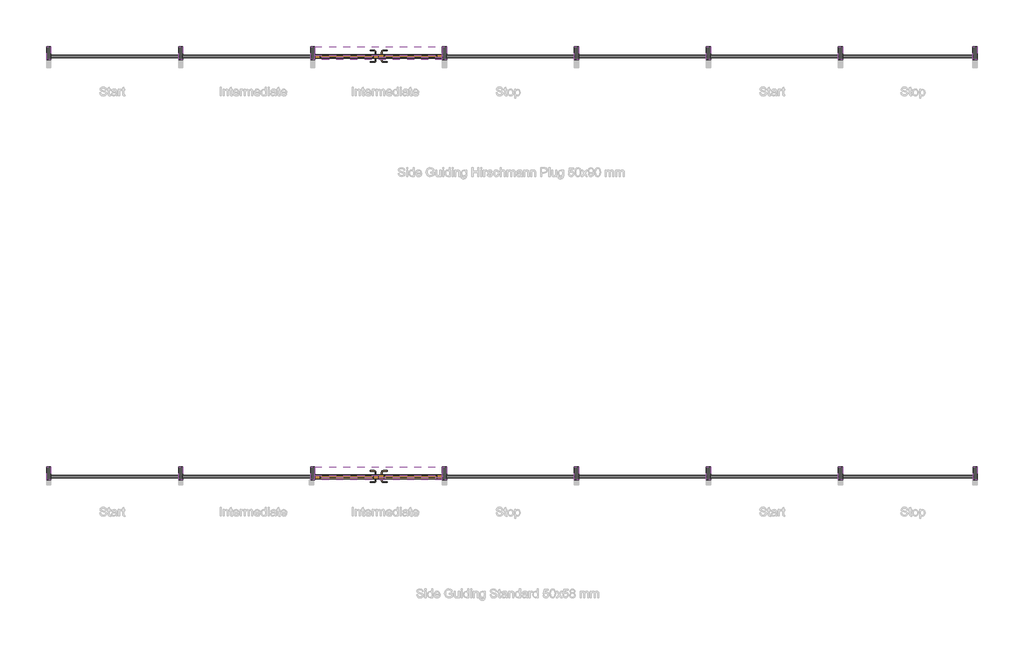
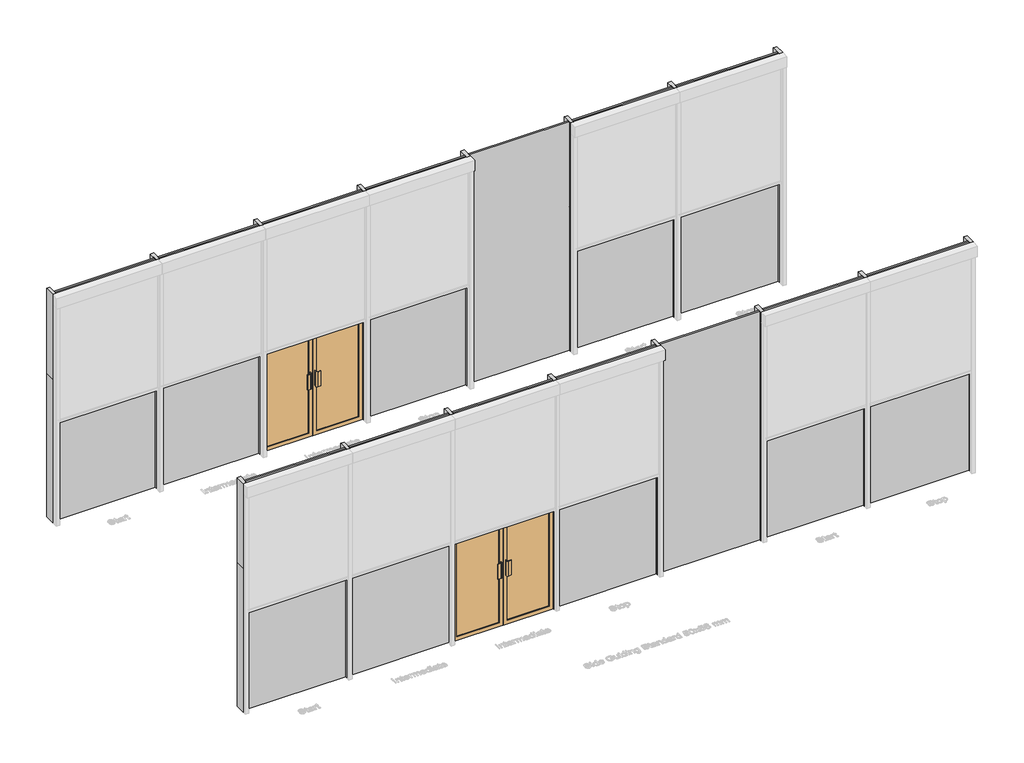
# One storey, part 1 of 8: 34 members, 14 plates, 2 doors.
"""IFC4 building model written with IfcOpenShell, lengths in millimetres."""

from ifc_helpers import new_model, si_unit, origin, place, context, project, spatial, transform, mapped, element, save
from components import m_door_curtain_wall_double_storefront_m_door_curtain_wall_2510477e, rectangular_mullion_50_x_150mm_9cef7b28, rectangular_mullion_50_x_150mm_d0db7fae, rectangular_mullion_50_x_150mm_792551fd, rectangular_mullion_50_x_150mm_1e3c48d4, rectangular_mullion_50_x_150mm_f0154c62, system_panel_glazed_d9c70c5e, system_panel_glazed_12b11880, system_panel_glazed_c856ec9c, system_panel_glazed_79ba9eb3

model = new_model("IFC4")

# Units and contexts
model_context = context("Model", 3, world=origin())
ifc_project = project(units=[si_unit("LENGTHUNIT", "METRE", prefix="MILLI")], contexts=[model_context])

# Site, building, storey
site = spatial("IfcSite", under=ifc_project)
building = spatial("IfcBuilding", under=site)
storey = spatial("IfcBuildingStorey", under=building, Name="Fixscreen Mini CW50 Overview Top", Elevation=0.0)

# Doors
placement = place(None, origin())
m_door_curtain_wall_double_storefront_m_door_curtain_wall_shape = m_door_curtain_wall_double_storefront_m_door_curtain_wall_2510477e(model_context)
element("IfcDoor", 1, ObjectType="M_Door-Curtain-Wall-Double-Storefront : M_Door-Curtain-Wall-Double-Storefront", at=placement, inside=storey, context=model_context, shape_type="MappedRepresentation", body=[
    mapped(m_door_curtain_wall_double_storefront_m_door_curtain_wall_shape, transform((-5658.6521319, 5269.1516233, 0.0), x_axis=(1.0, 0.0, 0.0), y_axis=(0.0, 1.0, 0.0), z_axis=(0.0, 0.0, 1.0))),
])
element("IfcDoor", 2, ObjectType="M_Door-Curtain-Wall-Double-Storefront : M_Door-Curtain-Wall-Double-Storefront", at=placement, inside=storey, context=model_context, shape_type="MappedRepresentation", body=[
    mapped(m_door_curtain_wall_double_storefront_m_door_curtain_wall_shape, transform((-5658.6521319, 489.0054477, 0.0), x_axis=(1.0, 0.0, 0.0), y_axis=(0.0, 1.0, 0.0), z_axis=(0.0, 0.0, 1.0))),
])

# Members
rectangular_mullion_50_x_150mm_shape = rectangular_mullion_50_x_150mm_9cef7b28(model_context)
element("IfcMember", 3, ObjectType="Rectangular Mullion : 50 x 150mm", at=placement, inside=storey, context=model_context, shape_type="MappedRepresentation", body=[
    mapped(rectangular_mullion_50_x_150mm_shape, transform((-7908.6521319, 5269.1516233, 0.0), x_axis=(1.0, 0.0, 0.0), y_axis=(0.0, -1.0, 0.0), z_axis=(0.0, 0.0, -1.0))),
])
element("IfcMember", 4, ObjectType="Rectangular Mullion : 50 x 150mm", at=placement, inside=storey, context=model_context, shape_type="MappedRepresentation", body=[
    mapped(rectangular_mullion_50_x_150mm_shape, transform((-3408.6521319, 5269.1516233, 0.0), x_axis=(1.0, 0.0, 0.0), y_axis=(0.0, -1.0, 0.0), z_axis=(0.0, 0.0, -1.0))),
])
element("IfcMember", 5, ObjectType="Rectangular Mullion : 50 x 150mm", at=placement, inside=storey, context=model_context, shape_type="MappedRepresentation", body=[
    mapped(rectangular_mullion_50_x_150mm_shape, transform((-1908.6521319, 5269.1516233, 0.0), x_axis=(1.0, 0.0, 0.0), y_axis=(0.0, -1.0, 0.0), z_axis=(0.0, 0.0, -1.0))),
])
element("IfcMember", 6, ObjectType="Rectangular Mullion : 50 x 150mm", at=placement, inside=storey, context=model_context, shape_type="MappedRepresentation", body=[
    mapped(rectangular_mullion_50_x_150mm_shape, transform((-408.6521319, 5269.1516233, 0.0), x_axis=(1.0, 0.0, 0.0), y_axis=(0.0, -1.0, 0.0), z_axis=(0.0, 0.0, -1.0))),
])
element("IfcMember", 7, ObjectType="Rectangular Mullion : 50 x 150mm", at=placement, inside=storey, context=model_context, shape_type="MappedRepresentation", body=[
    mapped(rectangular_mullion_50_x_150mm_shape, transform((-7908.6521319, 489.0054477, 0.0), x_axis=(1.0, 0.0, 0.0), y_axis=(0.0, -1.0, 0.0), z_axis=(0.0, 0.0, -1.0))),
])
element("IfcMember", 8, ObjectType="Rectangular Mullion : 50 x 150mm", at=placement, inside=storey, context=model_context, shape_type="MappedRepresentation", body=[
    mapped(rectangular_mullion_50_x_150mm_shape, transform((-3408.6521319, 489.0054477, 0.0), x_axis=(1.0, 0.0, 0.0), y_axis=(0.0, -1.0, 0.0), z_axis=(0.0, 0.0, -1.0))),
])
element("IfcMember", 9, ObjectType="Rectangular Mullion : 50 x 150mm", at=placement, inside=storey, context=model_context, shape_type="MappedRepresentation", body=[
    mapped(rectangular_mullion_50_x_150mm_shape, transform((-1908.6521319, 489.0054477, 0.0), x_axis=(1.0, 0.0, 0.0), y_axis=(0.0, -1.0, 0.0), z_axis=(0.0, 0.0, -1.0))),
])
element("IfcMember", 10, ObjectType="Rectangular Mullion : 50 x 150mm", at=placement, inside=storey, context=model_context, shape_type="MappedRepresentation", body=[
    mapped(rectangular_mullion_50_x_150mm_shape, transform((-408.6521319, 489.0054477, 0.0), x_axis=(1.0, 0.0, 0.0), y_axis=(0.0, -1.0, 0.0), z_axis=(0.0, 0.0, -1.0))),
])
rectangular_mullion_50_x_150mm_2_shape = rectangular_mullion_50_x_150mm_d0db7fae(model_context)
element("IfcMember", 11, ObjectType="Rectangular Mullion : 50 x 150mm", at=placement, inside=storey, context=model_context, shape_type="MappedRepresentation", body=[
    mapped(rectangular_mullion_50_x_150mm_2_shape, transform((-7908.6521319, 489.0054477, 2200.0), x_axis=(1.0, 0.0, 0.0), y_axis=(0.0, -1.0, 0.0), z_axis=(0.0, 0.0, -1.0))),
])
element("IfcMember", 12, ObjectType="Rectangular Mullion : 50 x 150mm", at=placement, inside=storey, context=model_context, shape_type="MappedRepresentation", body=[
    mapped(rectangular_mullion_50_x_150mm_2_shape, transform((-3408.6521319, 489.0054477, 2200.0), x_axis=(1.0, 0.0, 0.0), y_axis=(0.0, -1.0, 0.0), z_axis=(0.0, 0.0, -1.0))),
])
element("IfcMember", 13, ObjectType="Rectangular Mullion : 50 x 150mm", at=placement, inside=storey, context=model_context, shape_type="MappedRepresentation", body=[
    mapped(rectangular_mullion_50_x_150mm_2_shape, transform((-1908.6521319, 489.0054477, 2200.0), x_axis=(1.0, 0.0, 0.0), y_axis=(0.0, -1.0, 0.0), z_axis=(0.0, 0.0, -1.0))),
])
element("IfcMember", 14, ObjectType="Rectangular Mullion : 50 x 150mm", at=placement, inside=storey, context=model_context, shape_type="MappedRepresentation", body=[
    mapped(rectangular_mullion_50_x_150mm_2_shape, transform((-408.6521319, 489.0054477, 2200.0), x_axis=(1.0, 0.0, 0.0), y_axis=(0.0, -1.0, 0.0), z_axis=(0.0, 0.0, -1.0))),
])
element("IfcMember", 15, ObjectType="Rectangular Mullion : 50 x 150mm", at=placement, inside=storey, context=model_context, shape_type="MappedRepresentation", body=[
    mapped(rectangular_mullion_50_x_150mm_2_shape, transform((-7908.6521319, 5269.1516233, 2200.0), x_axis=(1.0, 0.0, 0.0), y_axis=(0.0, -1.0, 0.0), z_axis=(0.0, 0.0, -1.0))),
])
element("IfcMember", 16, ObjectType="Rectangular Mullion : 50 x 150mm", at=placement, inside=storey, context=model_context, shape_type="MappedRepresentation", body=[
    mapped(rectangular_mullion_50_x_150mm_2_shape, transform((-3408.6521319, 5269.1516233, 2200.0), x_axis=(1.0, 0.0, 0.0), y_axis=(0.0, -1.0, 0.0), z_axis=(0.0, 0.0, -1.0))),
])
element("IfcMember", 17, ObjectType="Rectangular Mullion : 50 x 150mm", at=placement, inside=storey, context=model_context, shape_type="MappedRepresentation", body=[
    mapped(rectangular_mullion_50_x_150mm_2_shape, transform((-1908.6521319, 5269.1516233, 2200.0), x_axis=(1.0, 0.0, 0.0), y_axis=(0.0, -1.0, 0.0), z_axis=(0.0, 0.0, -1.0))),
])
element("IfcMember", 18, ObjectType="Rectangular Mullion : 50 x 150mm", at=placement, inside=storey, context=model_context, shape_type="MappedRepresentation", body=[
    mapped(rectangular_mullion_50_x_150mm_2_shape, transform((-408.6521319, 5269.1516233, 2200.0), x_axis=(1.0, 0.0, 0.0), y_axis=(0.0, -1.0, 0.0), z_axis=(0.0, 0.0, -1.0))),
])
rectangular_mullion_50_x_150mm_3_shape = rectangular_mullion_50_x_150mm_792551fd(model_context)
element("IfcMember", 19, ObjectType="Rectangular Mullion : 50 x 150mm", at=placement, inside=storey, context=model_context, shape_type="MappedRepresentation", body=[
    mapped(rectangular_mullion_50_x_150mm_3_shape, transform((1141.3478681, 5269.1516233, 0.0), x_axis=(1.0, 0.0, 0.0), y_axis=(0.0, -1.0, 0.0), z_axis=(0.0, 0.0, -1.0))),
])
element("IfcMember", 20, ObjectType="Rectangular Mullion : 50 x 150mm", at=placement, inside=storey, context=model_context, shape_type="MappedRepresentation", body=[
    mapped(rectangular_mullion_50_x_150mm_3_shape, transform((1146.3478681, 489.0054477, 0.0), x_axis=(1.0, 0.0, 0.0), y_axis=(0.0, -1.0, 0.0), z_axis=(0.0, 0.0, -1.0))),
])
rectangular_mullion_50_x_150mm_4_shape = rectangular_mullion_50_x_150mm_1e3c48d4(model_context)
element("IfcMember", 21, ObjectType="Rectangular Mullion : 50 x 150mm", at=placement, inside=storey, context=model_context, shape_type="MappedRepresentation", body=[
    mapped(rectangular_mullion_50_x_150mm_4_shape, transform((-9433.6521319, 489.0054477, 3500.0), x_axis=(-1.0, 0.0, 0.0), y_axis=(0.0, -1.0, 0.0), z_axis=(0.0, 0.0, 1.0))),
])
element("IfcMember", 22, ObjectType="Rectangular Mullion : 50 x 150mm", at=placement, inside=storey, context=model_context, shape_type="MappedRepresentation", body=[
    mapped(rectangular_mullion_50_x_150mm_4_shape, transform((-9433.6521319, 5269.1516233, 3500.0), x_axis=(-1.0, 0.0, 0.0), y_axis=(0.0, -1.0, 0.0), z_axis=(0.0, 0.0, 1.0))),
])
element("IfcMember", 23, ObjectType="Rectangular Mullion : 50 x 150mm", at=placement, inside=storey, context=model_context, shape_type="MappedRepresentation", body=[
    mapped(rectangular_mullion_50_x_150mm_4_shape, transform((1146.3478681, 489.0054477, 2200.0), x_axis=(1.0, 0.0, 0.0), y_axis=(0.0, -1.0, 0.0), z_axis=(0.0, 0.0, -1.0))),
])
element("IfcMember", 24, ObjectType="Rectangular Mullion : 50 x 150mm", at=placement, inside=storey, context=model_context, shape_type="MappedRepresentation", body=[
    mapped(rectangular_mullion_50_x_150mm_4_shape, transform((1141.3478681, 5269.1516233, 2200.0), x_axis=(1.0, 0.0, 0.0), y_axis=(0.0, -1.0, 0.0), z_axis=(0.0, 0.0, -1.0))),
])
element("IfcMember", 25, ObjectType="Rectangular Mullion : 50 x 150mm", at=placement, inside=storey, context=model_context, shape_type="MappedRepresentation", body=[
    mapped(rectangular_mullion_50_x_150mm_3_shape, transform((-9433.6521319, 489.0054477, 2200.0), x_axis=(-1.0, 0.0, 0.0), y_axis=(0.0, -1.0, 0.0), z_axis=(0.0, 0.0, 1.0))),
])
element("IfcMember", 26, ObjectType="Rectangular Mullion : 50 x 150mm", at=placement, inside=storey, context=model_context, shape_type="MappedRepresentation", body=[
    mapped(rectangular_mullion_50_x_150mm_3_shape, transform((-9433.6521319, 5269.1516233, 2200.0), x_axis=(-1.0, 0.0, 0.0), y_axis=(0.0, -1.0, 0.0), z_axis=(0.0, 0.0, 1.0))),
])
element("IfcMember", 27, ObjectType="Rectangular Mullion : 50 x 150mm", at=placement, inside=storey, context=model_context, shape_type="MappedRepresentation", body=[
    mapped(rectangular_mullion_50_x_150mm_shape, transform((-6408.6521319, 5269.1516233, 0.0), x_axis=(1.0, 0.0, 0.0), y_axis=(0.0, -1.0, 0.0), z_axis=(0.0, 0.0, -1.0))),
])
element("IfcMember", 28, ObjectType="Rectangular Mullion : 50 x 150mm", at=placement, inside=storey, context=model_context, shape_type="MappedRepresentation", body=[
    mapped(rectangular_mullion_50_x_150mm_shape, transform((-4908.6521319, 5269.1516233, 0.0), x_axis=(1.0, 0.0, 0.0), y_axis=(0.0, -1.0, 0.0), z_axis=(0.0, 0.0, -1.0))),
])
element("IfcMember", 29, ObjectType="Rectangular Mullion : 50 x 150mm", at=placement, inside=storey, context=model_context, shape_type="MappedRepresentation", body=[
    mapped(rectangular_mullion_50_x_150mm_shape, transform((-6408.6521319, 489.0054477, 0.0), x_axis=(1.0, 0.0, 0.0), y_axis=(0.0, -1.0, 0.0), z_axis=(0.0, 0.0, -1.0))),
])
element("IfcMember", 30, ObjectType="Rectangular Mullion : 50 x 150mm", at=placement, inside=storey, context=model_context, shape_type="MappedRepresentation", body=[
    mapped(rectangular_mullion_50_x_150mm_shape, transform((-4908.6521319, 489.0054477, 0.0), x_axis=(1.0, 0.0, 0.0), y_axis=(0.0, -1.0, 0.0), z_axis=(0.0, 0.0, -1.0))),
])
element("IfcMember", 31, ObjectType="Rectangular Mullion : 50 x 150mm", at=placement, inside=storey, context=model_context, shape_type="MappedRepresentation", body=[
    mapped(rectangular_mullion_50_x_150mm_2_shape, transform((-6408.6521319, 489.0054477, 2200.0), x_axis=(1.0, 0.0, 0.0), y_axis=(0.0, -1.0, 0.0), z_axis=(0.0, 0.0, -1.0))),
])
element("IfcMember", 32, ObjectType="Rectangular Mullion : 50 x 150mm", at=placement, inside=storey, context=model_context, shape_type="MappedRepresentation", body=[
    mapped(rectangular_mullion_50_x_150mm_2_shape, transform((-4908.6521319, 489.0054477, 2200.0), x_axis=(1.0, 0.0, 0.0), y_axis=(0.0, -1.0, 0.0), z_axis=(0.0, 0.0, -1.0))),
])
element("IfcMember", 33, ObjectType="Rectangular Mullion : 50 x 150mm", at=placement, inside=storey, context=model_context, shape_type="MappedRepresentation", body=[
    mapped(rectangular_mullion_50_x_150mm_2_shape, transform((-6408.6521319, 5269.1516233, 2200.0), x_axis=(1.0, 0.0, 0.0), y_axis=(0.0, -1.0, 0.0), z_axis=(0.0, 0.0, -1.0))),
])
element("IfcMember", 34, ObjectType="Rectangular Mullion : 50 x 150mm", at=placement, inside=storey, context=model_context, shape_type="MappedRepresentation", body=[
    mapped(rectangular_mullion_50_x_150mm_2_shape, transform((-4908.6521319, 5269.1516233, 2200.0), x_axis=(1.0, 0.0, 0.0), y_axis=(0.0, -1.0, 0.0), z_axis=(0.0, 0.0, -1.0))),
])
rectangular_mullion_50_x_150mm_5_shape = rectangular_mullion_50_x_150mm_f0154c62(model_context)
element("IfcMember", 35, ObjectType="Rectangular Mullion : 50 x 150mm", at=placement, inside=storey, context=model_context, shape_type="MappedRepresentation", body=[
    mapped(rectangular_mullion_50_x_150mm_5_shape, transform((-4933.6521319, 489.0054477, 2200.0), x_axis=(0.0, 0.0, 1.0), y_axis=(0.0, -1.0, 0.0), z_axis=(1.0, 0.0, 0.0))),
])
element("IfcMember", 36, ObjectType="Rectangular Mullion : 50 x 150mm", at=placement, inside=storey, context=model_context, shape_type="MappedRepresentation", body=[
    mapped(rectangular_mullion_50_x_150mm_5_shape, transform((-4933.6521319, 5269.1516233, 2200.0), x_axis=(0.0, 0.0, 1.0), y_axis=(0.0, -1.0, 0.0), z_axis=(1.0, 0.0, 0.0))),
])

# Plates
system_panel_glazed_shape = system_panel_glazed_d9c70c5e(model_context)
element("IfcPlate", 37, ObjectType="System Panel : Glazed", at=placement, inside=storey, context=model_context, shape_type="MappedRepresentation", body=[
    mapped(system_panel_glazed_shape, transform((-8658.6521319, 5269.1516233, 0.0), x_axis=(1.0, 0.0, 0.0), y_axis=(0.0, 1.0, 0.0), z_axis=(0.0, 0.0, 1.0))),
])
element("IfcPlate", 38, ObjectType="System Panel : Glazed", at=placement, inside=storey, context=model_context, shape_type="MappedRepresentation", body=[
    mapped(system_panel_glazed_shape, transform((-7158.6521319, 5269.1516233, 0.0), x_axis=(1.0, 0.0, 0.0), y_axis=(0.0, 1.0, 0.0), z_axis=(0.0, 0.0, 1.0))),
])
element("IfcPlate", 39, ObjectType="System Panel : Glazed", at=placement, inside=storey, context=model_context, shape_type="MappedRepresentation", body=[
    mapped(system_panel_glazed_shape, transform((-4158.6521319, 5269.1516233, 0.0), x_axis=(1.0, 0.0, 0.0), y_axis=(0.0, 1.0, 0.0), z_axis=(0.0, 0.0, 1.0))),
])
element("IfcPlate", 40, ObjectType="System Panel : Glazed", at=placement, inside=storey, context=model_context, shape_type="MappedRepresentation", body=[
    mapped(system_panel_glazed_shape, transform((-2658.6521319, 5269.1516233, 0.0), x_axis=(1.0, 0.0, 0.0), y_axis=(0.0, 1.0, 0.0), z_axis=(0.0, 0.0, 1.0))),
])
element("IfcPlate", 41, ObjectType="System Panel : Glazed", at=placement, inside=storey, context=model_context, shape_type="MappedRepresentation", body=[
    mapped(system_panel_glazed_shape, transform((-1158.6521319, 5269.1516233, 0.0), x_axis=(1.0, 0.0, 0.0), y_axis=(0.0, 1.0, 0.0), z_axis=(0.0, 0.0, 1.0))),
])
element("IfcPlate", 42, ObjectType="System Panel : Glazed", at=placement, inside=storey, context=model_context, shape_type="MappedRepresentation", body=[
    mapped(system_panel_glazed_shape, transform((-8658.6521319, 489.0054477, 0.0), x_axis=(1.0, 0.0, 0.0), y_axis=(0.0, 1.0, 0.0), z_axis=(0.0, 0.0, 1.0))),
])
element("IfcPlate", 43, ObjectType="System Panel : Glazed", at=placement, inside=storey, context=model_context, shape_type="MappedRepresentation", body=[
    mapped(system_panel_glazed_shape, transform((-7158.6521319, 489.0054477, 0.0), x_axis=(1.0, 0.0, 0.0), y_axis=(0.0, 1.0, 0.0), z_axis=(0.0, 0.0, 1.0))),
])
element("IfcPlate", 44, ObjectType="System Panel : Glazed", at=placement, inside=storey, context=model_context, shape_type="MappedRepresentation", body=[
    mapped(system_panel_glazed_shape, transform((-4158.6521319, 489.0054477, 0.0), x_axis=(1.0, 0.0, 0.0), y_axis=(0.0, 1.0, 0.0), z_axis=(0.0, 0.0, 1.0))),
])
element("IfcPlate", 45, ObjectType="System Panel : Glazed", at=placement, inside=storey, context=model_context, shape_type="MappedRepresentation", body=[
    mapped(system_panel_glazed_shape, transform((-2658.6521319, 489.0054477, 0.0), x_axis=(1.0, 0.0, 0.0), y_axis=(0.0, 1.0, 0.0), z_axis=(0.0, 0.0, 1.0))),
])
element("IfcPlate", 46, ObjectType="System Panel : Glazed", at=placement, inside=storey, context=model_context, shape_type="MappedRepresentation", body=[
    mapped(system_panel_glazed_shape, transform((-1158.6521319, 489.0054477, 0.0), x_axis=(1.0, 0.0, 0.0), y_axis=(0.0, 1.0, 0.0), z_axis=(0.0, 0.0, 1.0))),
])
system_panel_glazed_2_shape = system_panel_glazed_12b11880(model_context)
element("IfcPlate", 47, ObjectType="System Panel : Glazed", at=placement, inside=storey, context=model_context, shape_type="MappedRepresentation", body=[
    mapped(system_panel_glazed_2_shape, transform((356.3478681, 489.0054477, 0.0), x_axis=(1.0, 0.0, 0.0), y_axis=(0.0, 1.0, 0.0), z_axis=(0.0, 0.0, 1.0))),
])
system_panel_glazed_3_shape = system_panel_glazed_c856ec9c(model_context)
element("IfcPlate", 48, ObjectType="System Panel : Glazed", at=placement, inside=storey, context=model_context, shape_type="MappedRepresentation", body=[
    mapped(system_panel_glazed_3_shape, transform((-5658.6521319, 489.0054477, 2225.0), x_axis=(1.0, 0.0, 0.0), y_axis=(0.0, 1.0, 0.0), z_axis=(0.0, 0.0, 1.0))),
])
element("IfcPlate", 49, ObjectType="System Panel : Glazed", at=placement, inside=storey, context=model_context, shape_type="MappedRepresentation", body=[
    mapped(system_panel_glazed_3_shape, transform((-5658.6521319, 5269.1516233, 2225.0), x_axis=(1.0, 0.0, 0.0), y_axis=(0.0, 1.0, 0.0), z_axis=(0.0, 0.0, 1.0))),
])
system_panel_glazed_4_shape = system_panel_glazed_79ba9eb3(model_context)
element("IfcPlate", 50, ObjectType="System Panel : Glazed", at=placement, inside=storey, context=model_context, shape_type="MappedRepresentation", body=[
    mapped(system_panel_glazed_4_shape, transform((353.8478681, 5269.1516233, 0.0), x_axis=(1.0, 0.0, 0.0), y_axis=(0.0, 1.0, 0.0), z_axis=(0.0, 0.0, 1.0))),
])

save(model, "model.ifc")
